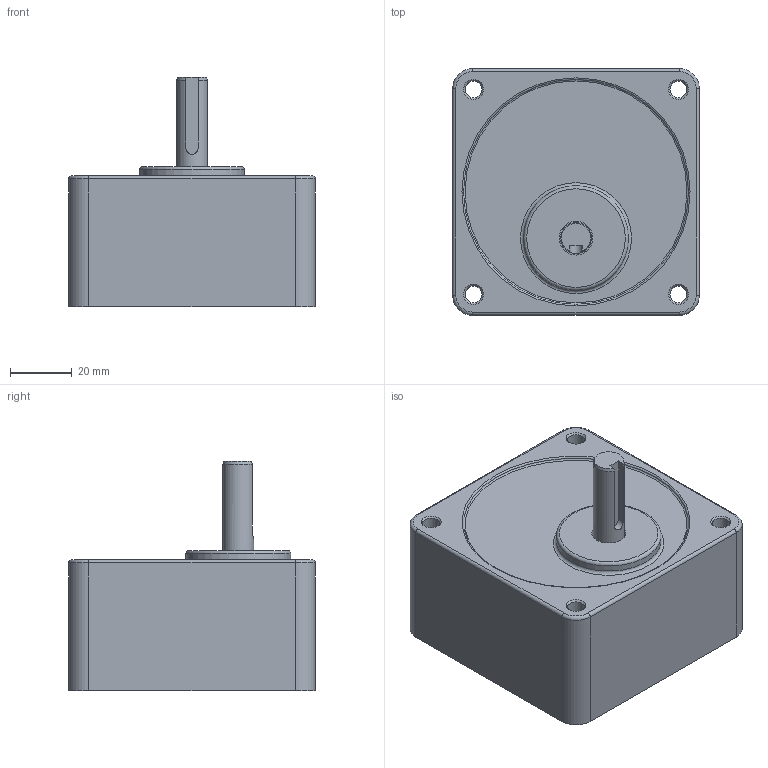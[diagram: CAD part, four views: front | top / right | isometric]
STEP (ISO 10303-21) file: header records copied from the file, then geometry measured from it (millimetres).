
FILE_DESCRIPTION((''),'2;1');
FILE_NAME('\\192.168.2.97\고객배포용도면\3D\Small Standard Series\GEAR HEAD\GEAR HEAD\15W25W\S8KA20~200.stp','2013-11-27T14:07:13',('jy-jung'),(''),'Autodesk Inventor 2011','Autodesk Inventor 2011','');
FILE_SCHEMA(('AUTOMOTIVE_DESIGN { 1 0 10303 214 1 1 1 1 }'));
Length unit declared in the file: millimetre
Products named in the file (1): 부품38
Bounding box: 80 x 80 x 74.5 mm (x, y, z)
Volume: 246136.3 mm3; surface area: 31679.2 mm2
Topology: 1 solids, 1 shells, 46 faces, 104 edges, 66 vertices
Faces by surface type: cylinder 18, plane 15, torus 8, cone 5
Full cylindrical faces by diameter (mm): 5.5 x4, 8 x1, 10 x1, 11 x1, 34 x1, 73 x1
Entity records: 1228 total; most frequent: DIRECTION 221, CARTESIAN_POINT 212, ORIENTED_EDGE 164, AXIS2_PLACEMENT_3D 96, EDGE_CURVE 82, EDGE_LOOP 77, VERTEX_POINT 61, CIRCLE 49
